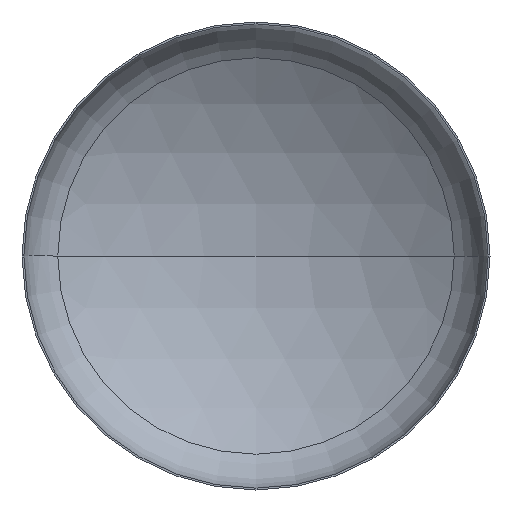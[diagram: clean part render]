
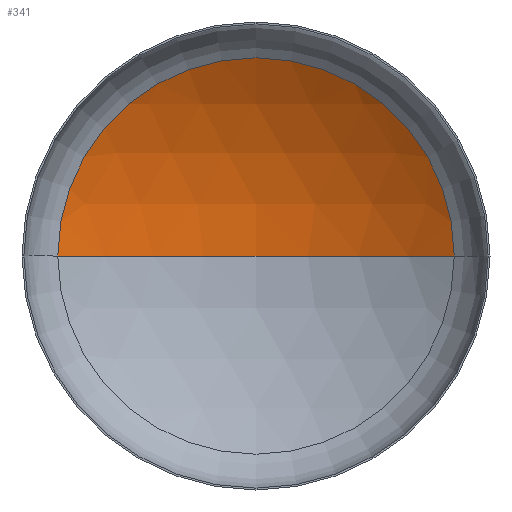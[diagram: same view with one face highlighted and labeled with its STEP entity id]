
A CAD part, front view. The second image highlights one B-rep face of the part: STEP entity #341.
In plain terms, the highlighted spherical face has radius 4000 mm.
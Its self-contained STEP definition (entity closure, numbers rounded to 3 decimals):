
#1 = CARTESIAN_POINT ( 'NONE',  ( 0., -2680.219, 0. ) ) ;
#3 = CARTESIAN_POINT ( 'NONE',  ( 0., -2680.219, 0. ) ) ;
#11 = CARTESIAN_POINT ( 'NONE',  ( 0., 1319.781, 0. ) ) ;
#23 = EDGE_LOOP ( 'NONE', ( #156, #123, #195 ) ) ;
#30 = AXIS2_PLACEMENT_3D ( 'NONE', #3, #357, #209 ) ;
#34 = AXIS2_PLACEMENT_3D ( 'NONE', #1, #325, #397 ) ;
#36 = AXIS2_PLACEMENT_3D ( 'NONE', #182, #183, #236 ) ;
#58 = AXIS2_PLACEMENT_3D ( 'NONE', #92, #237, #366 ) ;
#91 = EDGE_CURVE ( 'NONE', #131, #97, #228, .T. ) ;
#92 = CARTESIAN_POINT ( 'NONE',  ( 0., -2680.219, 0. ) ) ;
#93 = EDGE_CURVE ( 'NONE', #105, #131, #136, .T. ) ;
#94 = EDGE_CURVE ( 'NONE', #105, #97, #348, .T. ) ;
#97 = VERTEX_POINT ( 'NONE', #199 ) ;
#105 = VERTEX_POINT ( 'NONE', #11 ) ;
#123 = ORIENTED_EDGE ( 'NONE', *, *, #93, .T. ) ;
#131 = VERTEX_POINT ( 'NONE', #193 ) ;
#136 = CIRCLE ( 'NONE', #34, 4000. ) ;
#156 = ORIENTED_EDGE ( 'NONE', *, *, #94, .F. ) ;
#182 = CARTESIAN_POINT ( 'NONE',  ( 0., 713.241, 0. ) ) ;
#183 = DIRECTION ( 'NONE',  ( 0., -1., 0. ) ) ;
#185 = FACE_OUTER_BOUND ( 'NONE', #23, .T. ) ;
#193 = CARTESIAN_POINT ( 'NONE',  ( 2117.647, 713.241, 0. ) ) ;
#195 = ORIENTED_EDGE ( 'NONE', *, *, #91, .T. ) ;
#199 = CARTESIAN_POINT ( 'NONE',  ( -2117.647, 713.241, 0. ) ) ;
#209 = DIRECTION ( 'NONE',  ( 1., 0., 0. ) ) ;
#228 = CIRCLE ( 'NONE', #36, 2117.647 ) ;
#236 = DIRECTION ( 'NONE',  ( 1., 0., 0. ) ) ;
#237 = DIRECTION ( 'NONE',  ( 0., 0., -1. ) ) ;
#261 = SPHERICAL_SURFACE ( 'NONE', #58, 4000. ) ;
#325 = DIRECTION ( 'NONE',  ( 0., 0., -1. ) ) ;
#341 = ADVANCED_FACE ( 'NONE', ( #185 ), #261, .F. ) ;
#348 = CIRCLE ( 'NONE', #30, 4000. ) ;
#357 = DIRECTION ( 'NONE',  ( 0., 0., 1. ) ) ;
#366 = DIRECTION ( 'NONE',  ( -1., 0., 0. ) ) ;
#397 = DIRECTION ( 'NONE',  ( -1., 0., 0. ) ) ;
